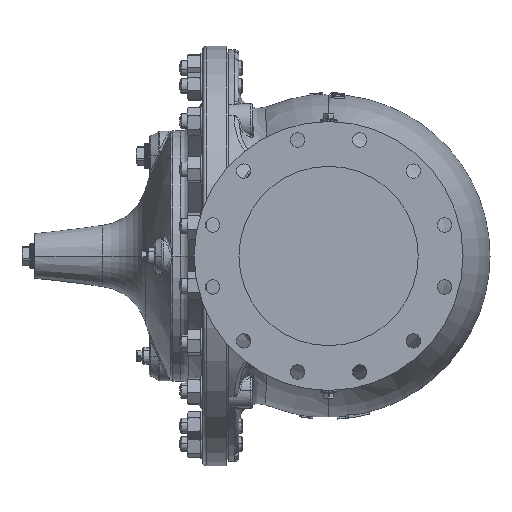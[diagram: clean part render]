
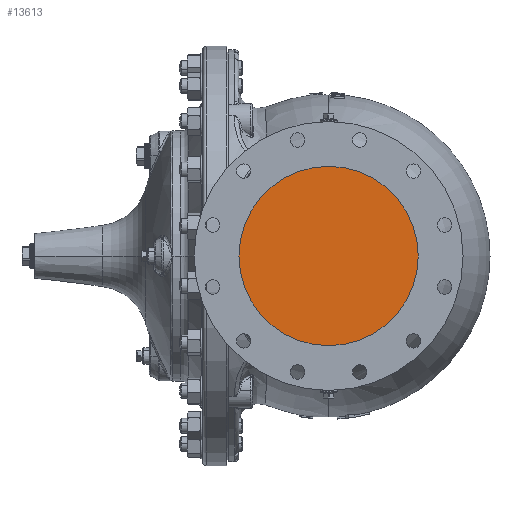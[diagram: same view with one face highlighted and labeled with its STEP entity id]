
A CAD part, left-side view. The second image highlights one B-rep face of the part: STEP entity #13613.
In plain terms, the highlighted planar face has unit normal (-1, 0, 0).
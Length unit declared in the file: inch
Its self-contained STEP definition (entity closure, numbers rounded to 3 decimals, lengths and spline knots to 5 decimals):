
#4343 = DIRECTION ( 'NONE',  ( 1., 0., 0. ) ) ;
#6778 = AXIS2_PLACEMENT_3D ( 'NONE', #34464, #4343, #39489 ) ;
#7826 = EDGE_LOOP ( 'NONE', ( #33279, #48187 ) ) ;
#8104 = CARTESIAN_POINT ( 'NONE',  ( -16.7, 0., 7. ) ) ;
#13613 = ADVANCED_FACE ( 'NONE', ( #49776 ), #18784, .T. ) ;
#18784 = PLANE ( 'NONE',  #49338 ) ;
#22074 = AXIS2_PLACEMENT_3D ( 'NONE', #27674, #62864, #32746 ) ;
#23037 = CIRCLE ( 'NONE', #22074, 7. ) ;
#23825 = DIRECTION ( 'NONE',  ( -1., 0., 0. ) ) ;
#27674 = CARTESIAN_POINT ( 'NONE',  ( -16.7, 0., 0. ) ) ;
#32746 = DIRECTION ( 'NONE',  ( 0., 0., -1. ) ) ;
#33279 = ORIENTED_EDGE ( 'NONE', *, *, #50711, .F. ) ;
#34464 = CARTESIAN_POINT ( 'NONE',  ( -16.7, 0., 0. ) ) ;
#39489 = DIRECTION ( 'NONE',  ( 0., 0., -1. ) ) ;
#42536 = EDGE_CURVE ( 'NONE', #43420, #64733, #23037, .T. ) ;
#43420 = VERTEX_POINT ( 'NONE', #55580 ) ;
#48187 = ORIENTED_EDGE ( 'NONE', *, *, #42536, .F. ) ;
#48914 = CARTESIAN_POINT ( 'NONE',  ( -16.7, 0., 0. ) ) ;
#49338 = AXIS2_PLACEMENT_3D ( 'NONE', #48914, #23825, #59034 ) ;
#49776 = FACE_OUTER_BOUND ( 'NONE', #7826, .T. ) ;
#50244 = CIRCLE ( 'NONE', #6778, 7. ) ;
#50711 = EDGE_CURVE ( 'NONE', #64733, #43420, #50244, .T. ) ;
#55580 = CARTESIAN_POINT ( 'NONE',  ( -16.7, 0., -7. ) ) ;
#59034 = DIRECTION ( 'NONE',  ( 0., 0., -1. ) ) ;
#62864 = DIRECTION ( 'NONE',  ( 1., 0., 0. ) ) ;
#64733 = VERTEX_POINT ( 'NONE', #8104 ) ;
